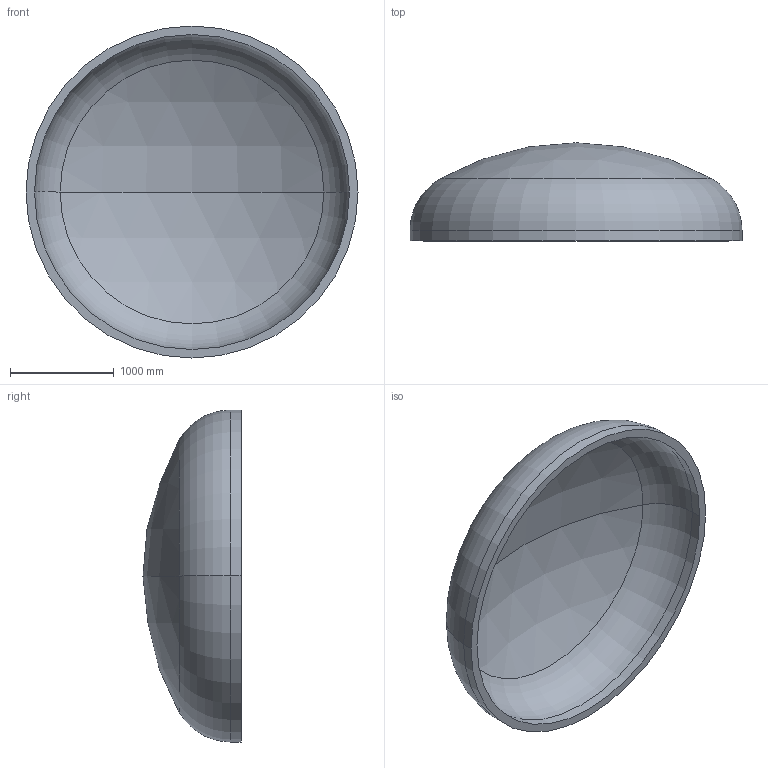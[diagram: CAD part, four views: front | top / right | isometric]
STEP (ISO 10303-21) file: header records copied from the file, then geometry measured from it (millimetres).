
FILE_DESCRIPTION (( 'STEP AP203' ), '1' );
FILE_NAME ('DIN 28013 Korbbogenform_-_Boden DIN 28013 - 3200 x 100 - I - s=82.step', '2016-07-01T18:52:42', ( '' ), ( '' ), 'SwSTEP 2.0', 'SolidWorks 2013', '' );
FILE_SCHEMA (( 'CONFIG_CONTROL_DESIGN' ));
Length unit declared in the file: millimetre
Products named in the file (1): DIN 28013 Korbbogenform_-_Boden DIN 28013 - 3200 x 100 - I - s=82
Bounding box: 3200 x 945.3 x 3200 mm (x, y, z)
Volume: 962520708 mm3; surface area: 24293419.4 mm2
Topology: 1 solids, 1 shells, 13 faces, 24 edges, 14 vertices
Faces by surface type: torus 4, cylinder 4, sphere 4, plane 1
Entity records: 407 total; most frequent: DIRECTION 72, CARTESIAN_POINT 52, ORIENTED_EDGE 48, AXIS2_PLACEMENT_3D 34, EDGE_CURVE 24, CIRCLE 20, EDGE_LOOP 14, VERTEX_POINT 14
